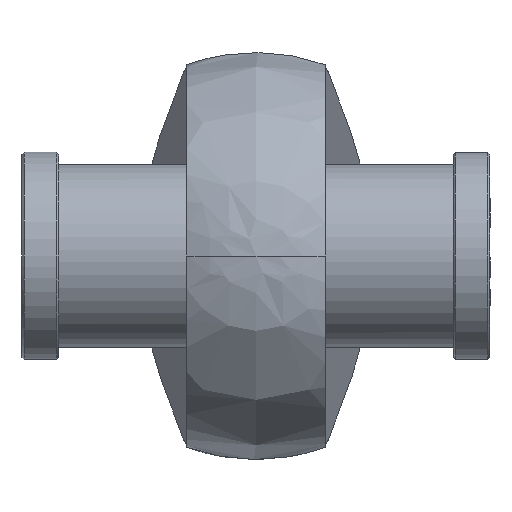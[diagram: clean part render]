
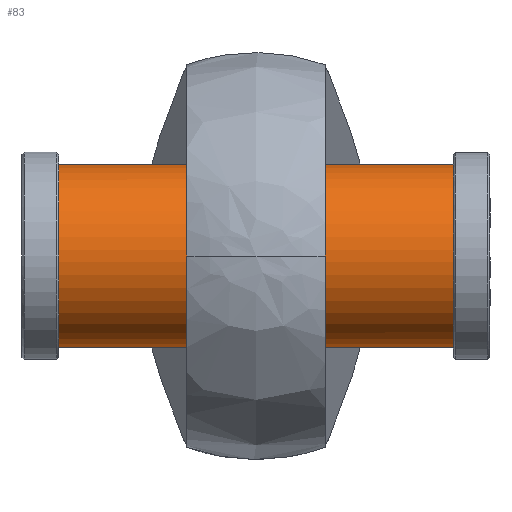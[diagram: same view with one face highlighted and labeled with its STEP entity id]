
A CAD part, left-side view. The second image highlights one B-rep face of the part: STEP entity #83.
In plain terms, the highlighted cylindrical face has radius 22.5 mm (diameter 45 mm), a full revolution.
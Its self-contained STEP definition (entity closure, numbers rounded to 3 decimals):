
#83=ADVANCED_FACE('',(#157),#1214,.T.);
#157=FACE_OUTER_BOUND('',#238,.T.);
#238=EDGE_LOOP('',(#506,#507,#508,#509));
#506=ORIENTED_EDGE('',*,*,#774,.T.);
#507=ORIENTED_EDGE('',*,*,#776,.T.);
#508=ORIENTED_EDGE('',*,*,#775,.T.);
#509=ORIENTED_EDGE('',*,*,#776,.F.);
#774=EDGE_CURVE('',#1128,#1128,#983,.T.);
#775=EDGE_CURVE('',#1129,#1129,#984,.T.);
#776=EDGE_CURVE('',#1128,#1129,#897,.T.);
#897=B_SPLINE_CURVE_WITH_KNOTS('',1,(#2248,#2249),.UNSPECIFIED.,.F.,.F.,
(2,2),(9.821,106.832),.UNSPECIFIED.);
#983=(
BOUNDED_CURVE()
B_SPLINE_CURVE(2,(#2230,#2231,#2232,#2233,#2234,#2235,#2236,#2237,#2238),
 .UNSPECIFIED.,.T.,.F.)
B_SPLINE_CURVE_WITH_KNOTS((3,2,2,2,3),(0.,35.343,70.686,
106.029,141.372),.UNSPECIFIED.)
CURVE()
GEOMETRIC_REPRESENTATION_ITEM()
RATIONAL_B_SPLINE_CURVE((1.,0.707,1.,0.707,1.,0.707,
1.,0.707,1.))
REPRESENTATION_ITEM('')
);
#984=(
BOUNDED_CURVE()
B_SPLINE_CURVE(2,(#2239,#2240,#2241,#2242,#2243,#2244,#2245,#2246,#2247),
 .UNSPECIFIED.,.T.,.F.)
B_SPLINE_CURVE_WITH_KNOTS((3,2,2,2,3),(0.,35.343,70.686,
106.029,141.372),.UNSPECIFIED.)
CURVE()
GEOMETRIC_REPRESENTATION_ITEM()
RATIONAL_B_SPLINE_CURVE((1.,0.707,1.,0.707,1.,0.707,
1.,0.707,1.))
REPRESENTATION_ITEM('')
);
#1128=VERTEX_POINT('',#2182);
#1129=VERTEX_POINT('',#2183);
#1214=CYLINDRICAL_SURFACE('',#1366,22.5);
#1366=AXIS2_PLACEMENT_3D('',#2172,#1412,$);
#1412=DIRECTION('',(0.,-1.,0.));
#2172=CARTESIAN_POINT('',(0.,0.,0.));
#2182=CARTESIAN_POINT('',(22.5,48.505,0.));
#2183=CARTESIAN_POINT('',(22.5,-48.505,0.));
#2230=CARTESIAN_POINT('',(22.5,48.505,0.));
#2231=CARTESIAN_POINT('',(22.5,48.505,22.5));
#2232=CARTESIAN_POINT('',(0.,48.505,22.5));
#2233=CARTESIAN_POINT('',(-22.5,48.505,22.5));
#2234=CARTESIAN_POINT('',(-22.5,48.505,0.));
#2235=CARTESIAN_POINT('',(-22.5,48.505,-22.5));
#2236=CARTESIAN_POINT('',(0.,48.505,-22.5));
#2237=CARTESIAN_POINT('',(22.5,48.505,-22.5));
#2238=CARTESIAN_POINT('',(22.5,48.505,0.));
#2239=CARTESIAN_POINT('',(22.5,-48.505,0.));
#2240=CARTESIAN_POINT('',(22.5,-48.505,-22.5));
#2241=CARTESIAN_POINT('',(0.,-48.505,-22.5));
#2242=CARTESIAN_POINT('',(-22.5,-48.505,-22.5));
#2243=CARTESIAN_POINT('',(-22.5,-48.505,0.));
#2244=CARTESIAN_POINT('',(-22.5,-48.505,22.5));
#2245=CARTESIAN_POINT('',(0.,-48.505,22.5));
#2246=CARTESIAN_POINT('',(22.5,-48.505,22.5));
#2247=CARTESIAN_POINT('',(22.5,-48.505,0.));
#2248=CARTESIAN_POINT('',(22.5,48.505,0.));
#2249=CARTESIAN_POINT('',(22.5,-48.505,0.));
